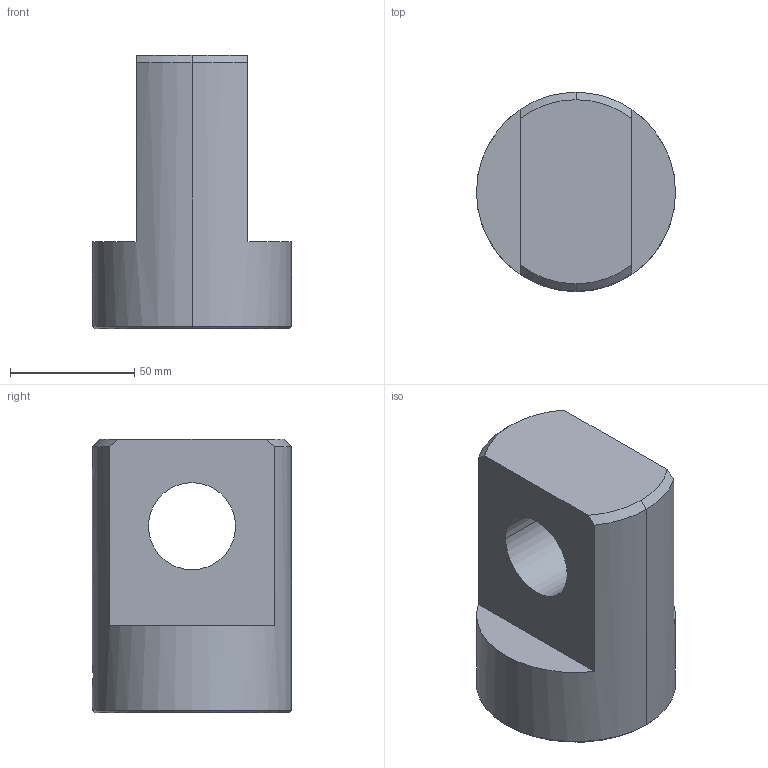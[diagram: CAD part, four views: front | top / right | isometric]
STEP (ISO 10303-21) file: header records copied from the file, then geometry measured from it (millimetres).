
FILE_DESCRIPTION (( 'STEP AP203' ), '1' );
FILE_NAME ('MJ5-GK.STEP', '2024-01-15T15:25:05', ( '' ), ( '' ), 'SwSTEP 2.0', 'SolidWorks 2022', '' );
FILE_SCHEMA (( 'CONFIG_CONTROL_DESIGN' ));
Length unit declared in the file: millimetre
Products named in the file (1): MJ5-GK
Bounding box: 80 x 80 x 110 mm (x, y, z)
Volume: 340970.5 mm3; surface area: 44836.9 mm2
Topology: 1 solids, 1 shells, 29 faces, 80 edges, 52 vertices
Faces by surface type: cylinder 10, cone 8, plane 7, torus 4
Entity records: 1175 total; most frequent: CARTESIAN_POINT 336, DIRECTION 170, ORIENTED_EDGE 160, EDGE_CURVE 80, AXIS2_PLACEMENT_3D 72, VERTEX_POINT 52, CIRCLE 42, EDGE_LOOP 32
